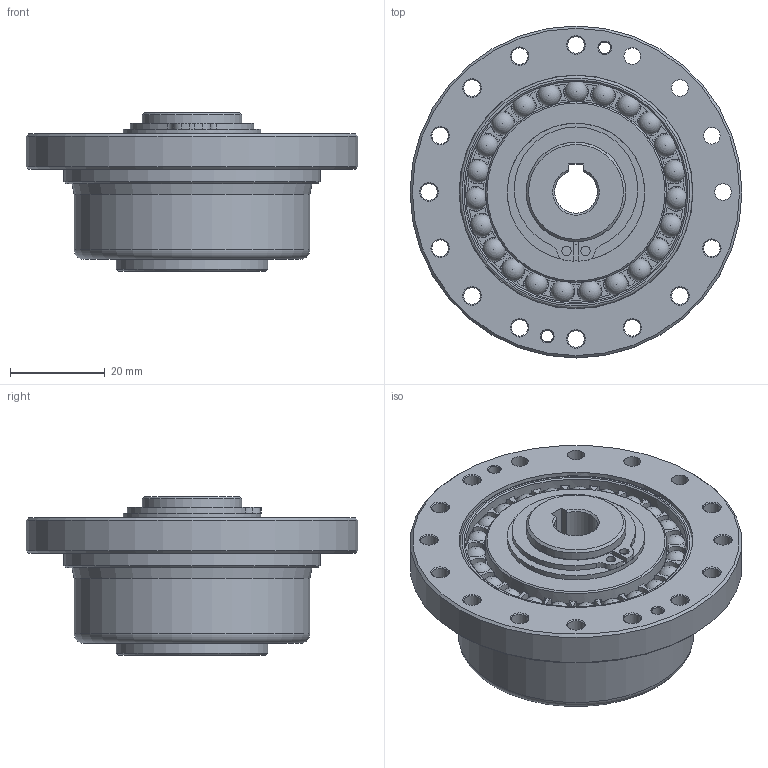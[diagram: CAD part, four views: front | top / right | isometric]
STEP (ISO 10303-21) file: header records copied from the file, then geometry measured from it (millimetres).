
FILE_DESCRIPTION(/* description */ (''),/* implementation_level */ '2;1');
FILE_NAME(/* name */ 'S:\TB00F\研發課二組\機密級\1.\X2\8A2D8A08\X0\\01-DT\DT-圖面\2.組合圖\\X2\6A21578B\X0\\DGC-CO\DGC-20-XXX-CO模型\DGC-20-XX-CO.stp',/* time_stamp */ '2024-09-25T17:09:52+08:00',/* author */ ('ted40524246.cheng'),/* organization */ (''),/* preprocessor_version */ 'ST-DEVELOPER v15.2',/* originating_system */ 'Autodesk Inventor 2014',/* authorisation */ '');
FILE_SCHEMA (('AUTOMOTIVE_DESIGN { 1 0 10303 214 3 1 1 }'));
Length unit declared in the file: centimetre
Products named in the file (1): DGC-20-XX-CO
Bounding box: 70 x 70 x 33.5 mm (x, y, z)
Volume: 42689.7 mm3; surface area: 23401.2 mm2
Topology: 1 solids, 1 shells, 354 faces, 880 edges, 542 vertices
Faces by surface type: cylinder 147, plane 73, cone 62, torus 49, sphere 23
Full cylindrical faces by diameter (mm): 2 x2, 2.459 x4, 3.5 x16, 5.5 x8, 16 x1, 20 x1, 21 x2, 22.1 x1, 29 x1, 32 x1, 36 x1, 38.15 x1, 46.64 x1, 49.07 x2, 49.7 x1, 51.07 x1, 54 x1, 70 x1
Entity records: 9702 total; most frequent: DIRECTION 1922, CARTESIAN_POINT 1497, ORIENTED_EDGE 1432, AXIS2_PLACEMENT_3D 901, EDGE_CURVE 670, EDGE_LOOP 558, CIRCLE 546, VERTEX_POINT 464
